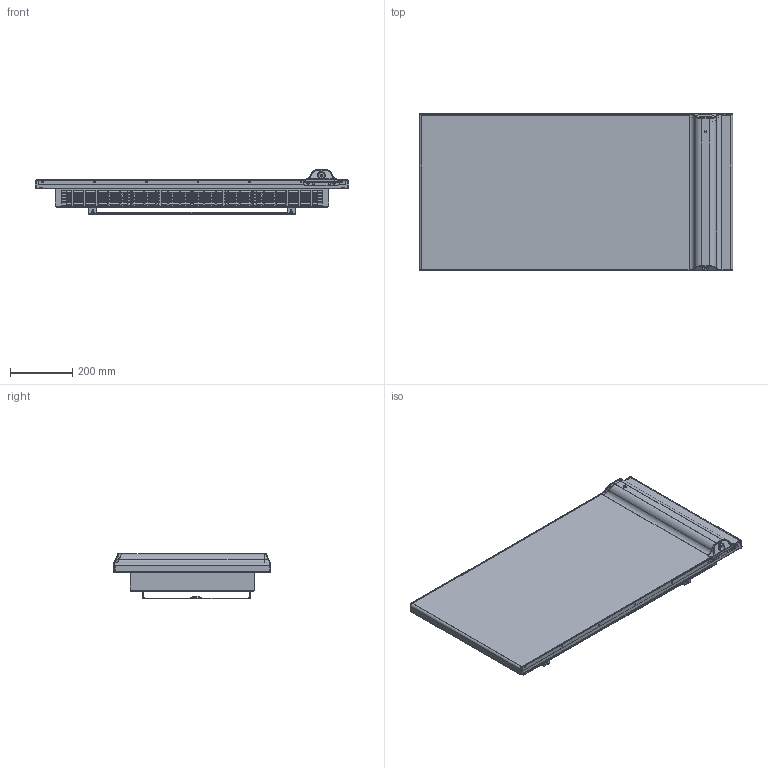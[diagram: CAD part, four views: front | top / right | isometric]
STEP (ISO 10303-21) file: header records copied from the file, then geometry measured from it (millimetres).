
FILE_DESCRIPTION(('FreeCAD Model'),'2;1');
FILE_NAME('Open CASCADE Shape Model','2026-06-05T10:01:15',(''),(''), 'Open CASCADE STEP processor 7.8','FreeCAD','Unknown');
FILE_SCHEMA(('AUTOMOTIVE_DESIGN { 1 0 10303 214 1 1 1 1 }'));
Length unit declared in the file: millimetre
Products named in the file (16): Unnamed; KLI_POSTERIORE_1500W; KLI_GR-COMANDI_ASM; KLI_PIR-BOARD; KLI_TAPPO-INFERIORE; KLI_ANTERIORE_1500W; KLI_GR-PROFILO-SUPERIO_1500W_ASM; KLI_PROFILO-SUPERIORE_1500W; KLI_COPERCHIO; KLI_DISPLAY-BOARD; KLI_ADESIVO; KLI_GR-SUPPORTO-MURALE_MAX_ASM; KLI_TRAVERSA-SUPPORTO_MAX; KLI_GR-ASTA-SUPPORTO-MURALE_ASM; KLI_SUPPORTO-MURALE; KLI_GR-ASTA-SUPPORTO-MURALE_ASM001
Assembly tree (16 placements, depth 4):
  Unnamed
    KLI_POSTERIORE_1500W
    KLI_GR-COMANDI_ASM
      KLI_PIR-BOARD
    KLI_TAPPO-INFERIORE
    KLI_ANTERIORE_1500W
    KLI_GR-PROFILO-SUPERIO_1500W_ASM
      KLI_PROFILO-SUPERIORE_1500W
    KLI_COPERCHIO
    KLI_DISPLAY-BOARD
    KLI_ADESIVO
    KLI_GR-SUPPORTO-MURALE_MAX_ASM
      KLI_TRAVERSA-SUPPORTO_MAX
      KLI_GR-ASTA-SUPPORTO-MURALE_ASM
        KLI_SUPPORTO-MURALE
      KLI_GR-ASTA-SUPPORTO-MURALE_ASM001
        KLI_SUPPORTO-MURALE
Bounding box: 1010 x 504.4 x 147 mm (x, y, z)
Volume: 1058719.7 mm3; surface area: 2723987.6 mm2
Topology: 11 solids, 11 shells, 2662 faces, 6850 edges, 4201 vertices
Faces by surface type: plane 1598, cylinder 602, bspline 210, torus 146, cone 61, sphere 44, extrusion 1
Entity records: 89140 total; most frequent: CARTESIAN_POINT 27043, ORIENTED_EDGE 13104, DIRECTION 11982, EDGE_CURVE 6552, VECTOR 4656, LINE 4655, VERTEX_POINT 4032, AXIS2_PLACEMENT_3D 3663
